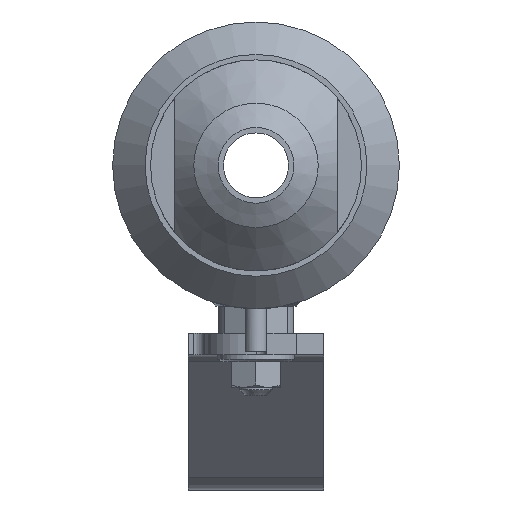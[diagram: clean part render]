
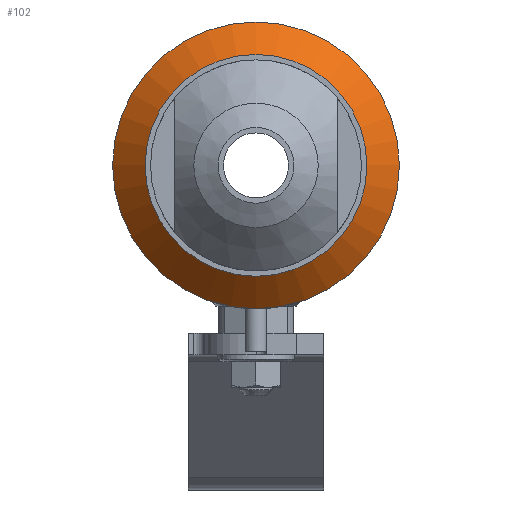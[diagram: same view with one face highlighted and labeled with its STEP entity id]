
A CAD part, left-side view. The second image highlights one B-rep face of the part: STEP entity #102.
In plain terms, the highlighted conical face has half-angle 45 degrees and reference radius 23.5 mm.
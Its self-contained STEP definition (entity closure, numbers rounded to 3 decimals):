
#102=ADVANCED_FACE('',(#824),#826,.T.);
#824=FACE_OUTER_BOUND('',#825,.T.);
#825=EDGE_LOOP('',(#1839,#1840,#1841,#1842));
#826=CONICAL_SURFACE('',#827,23.5,0.785);
#827=AXIS2_PLACEMENT_3D('',#828,#829,#830);
#828=CARTESIAN_POINT('',(-28.5,0.,0.));
#829=DIRECTION('',(1.,0.,0.));
#830=DIRECTION('',(0.,1.,0.));
#1839=ORIENTED_EDGE('',*,*,#2907,.T.);
#1840=ORIENTED_EDGE('',*,*,#2908,.T.);
#1841=ORIENTED_EDGE('',*,*,#2907,.F.);
#1842=ORIENTED_EDGE('',*,*,#2888,.F.);
#2888=EDGE_CURVE('',#3153,#3153,#3154,.T.);
#2907=EDGE_CURVE('',#3153,#3188,#3189,.T.);
#2908=EDGE_CURVE('',#3188,#3188,#3190,.T.);
#3153=VERTEX_POINT('',#3584);
#3154=CIRCLE('',#3585,20.5);
#3188=VERTEX_POINT('',#3859);
#3189=LINE('',#3860,#3861);
#3190=CIRCLE('',#3863,26.5);
#3584=CARTESIAN_POINT('',(-31.5,-20.5,0.));
#3585=AXIS2_PLACEMENT_3D('',#3586,#3587,#3588);
#3586=CARTESIAN_POINT('',(-31.5,0.,0.));
#3587=DIRECTION('',(-1.,-0.,-0.));
#3588=DIRECTION('',(0.,-1.,0.));
#3859=CARTESIAN_POINT('',(-25.5,-26.5,0.));
#3860=CARTESIAN_POINT('',(-31.5,-20.5,0.));
#3861=VECTOR('',#3862,1.);
#3862=DIRECTION('',(0.707,-0.707,0.));
#3863=AXIS2_PLACEMENT_3D('',#3864,#3865,#3866);
#3864=CARTESIAN_POINT('',(-25.5,0.,0.));
#3865=DIRECTION('',(-1.,-0.,0.));
#3866=DIRECTION('',(0.,-1.,0.));
